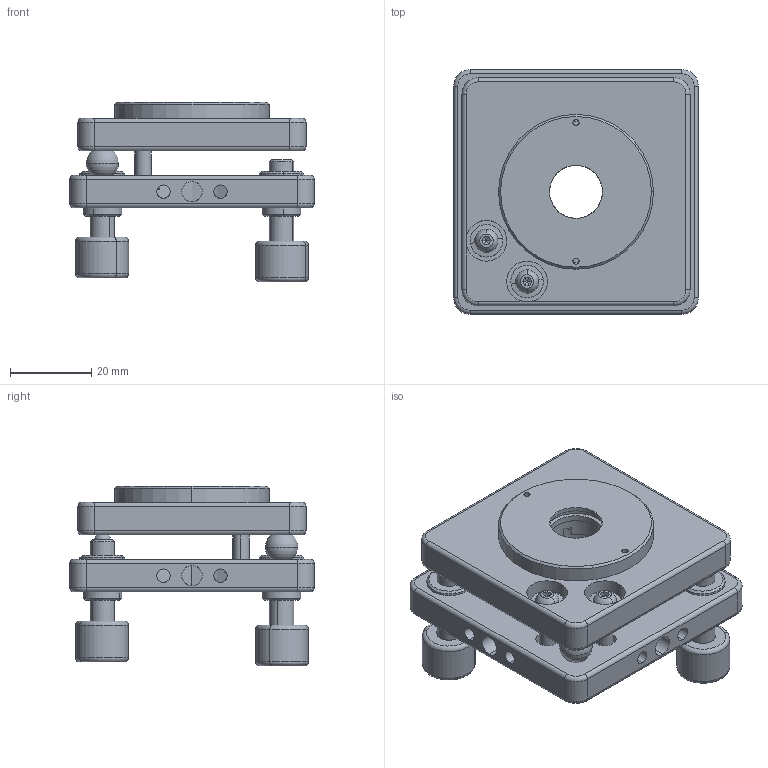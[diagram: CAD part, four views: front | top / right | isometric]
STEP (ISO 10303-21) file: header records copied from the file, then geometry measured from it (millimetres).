
FILE_DESCRIPTION (( 'STEP AP203' ), '1' );
FILE_NAME ('7MM0115謗峎覃誹噩殤.STEP', '2019-10-15T08:18:23', ( '' ), ( '' ), 'SwSTEP 2.0', 'SolidWorks 2014', '' );
FILE_SCHEMA (( 'CONFIG_CONTROL_DESIGN' ));
Length unit declared in the file: millimetre
Products named in the file (1): 7MM0115謗峎覃誹噩殤
Bounding box: 60 x 60 x 44.15 mm (x, y, z)
Surface area: 22124.7 mm2 (no closed solid volume)
Topology: 0 solids, 38 shells, 278 faces, 694 edges, 437 vertices
Faces by surface type: cylinder 114, plane 88, cone 40, torus 24, sphere 12
Entity records: 8701 total; most frequent: CARTESIAN_POINT 1870, DIRECTION 1583, ORIENTED_EDGE 1194, EDGE_CURVE 680, AXIS2_PLACEMENT_3D 644, VERTEX_POINT 431, CIRCLE 365, EDGE_LOOP 327
